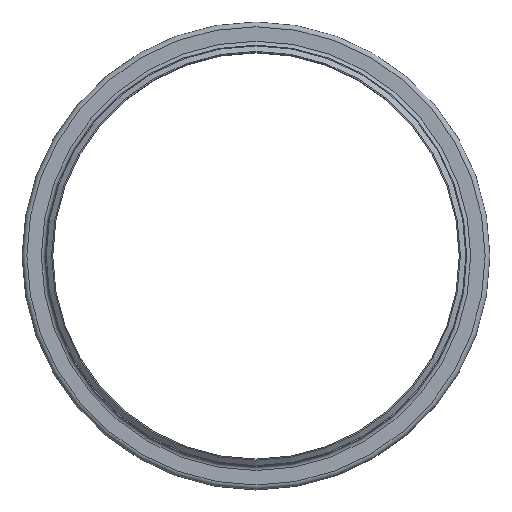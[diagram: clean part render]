
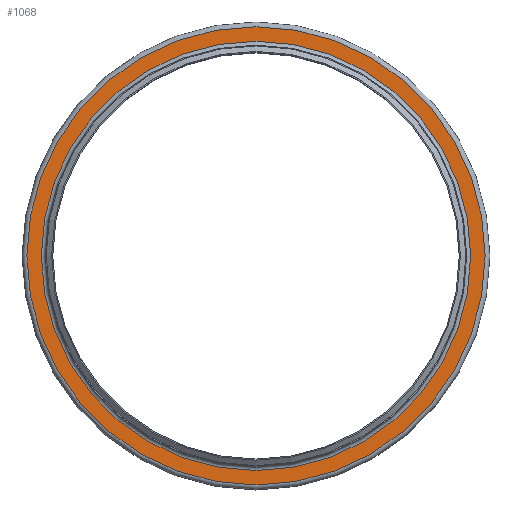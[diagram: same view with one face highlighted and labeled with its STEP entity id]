
A CAD part, top view. The second image highlights one B-rep face of the part: STEP entity #1068.
In plain terms, the highlighted planar face has unit normal (0, 0, 1).
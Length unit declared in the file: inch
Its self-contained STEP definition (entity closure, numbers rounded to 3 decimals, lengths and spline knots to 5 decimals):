
#102=FACE_BOUND('',#282,.T.);
#171=FACE_OUTER_BOUND('',#281,.T.);
#281=EDGE_LOOP('',(#824));
#282=EDGE_LOOP('',(#825));
#402=CIRCLE('',#1264,12.274);
#403=CIRCLE('',#1266,13.101);
#491=VERTEX_POINT('',#1935);
#492=VERTEX_POINT('',#1939);
#606=EDGE_CURVE('',#491,#491,#402,.T.);
#607=EDGE_CURVE('',#492,#492,#403,.T.);
#824=ORIENTED_EDGE('',*,*,#607,.F.);
#825=ORIENTED_EDGE('',*,*,#606,.T.);
#918=PLANE('',#1265);
#1068=ADVANCED_FACE('',(#171,#102),#918,.T.);
#1264=AXIS2_PLACEMENT_3D('',#1937,#1621,#1622);
#1265=AXIS2_PLACEMENT_3D('',#1938,#1623,#1624);
#1266=AXIS2_PLACEMENT_3D('',#1940,#1625,#1626);
#1621=DIRECTION('center_axis',(0.,0.,
-1.));
#1622=DIRECTION('ref_axis',(1.,0.,0.));
#1623=DIRECTION('center_axis',(0.,0.,
1.));
#1624=DIRECTION('ref_axis',(1.,0.,0.));
#1625=DIRECTION('center_axis',(0.,0.,
-1.));
#1626=DIRECTION('ref_axis',(1.,0.,0.));
#1935=CARTESIAN_POINT('',(12.274,0.,-1.726));
#1937=CARTESIAN_POINT('Origin',(0.,0.,
-1.726));
#1938=CARTESIAN_POINT('Origin',(0.,13.101,-1.726));
#1939=CARTESIAN_POINT('',(13.101,0.,-1.726));
#1940=CARTESIAN_POINT('Origin',(0.,0.,
-1.726));
